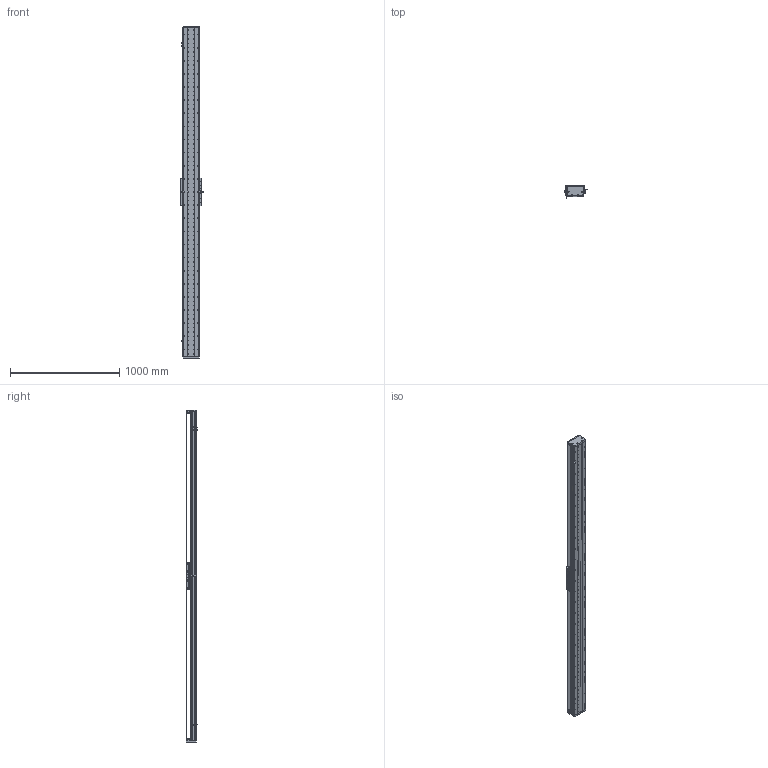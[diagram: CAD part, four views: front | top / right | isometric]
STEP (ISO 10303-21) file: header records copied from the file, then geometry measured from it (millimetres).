
FILE_DESCRIPTION (( 'STEP AP203' ), '1' );
FILE_NAME ('DA-C145-C3-T2700-C010-0.2 眻盄萇儂.STEP', '2025-08-14T01:34:53', ( '' ), ( '' ), 'SwSTEP 2.0', 'SolidWorks 2019', '' );
FILE_SCHEMA (( 'CONFIG_CONTROL_DESIGN' ));
Length unit declared in the file: millimetre
Products named in the file (32): DA-C145-C3-T2700-C010-0.2 眻盄萇儂; 葩璃 CKMA01-W060-TRL^DA-C145-C3-T-C010-0.2; IU-CU145-L-00 菁釱(L3000); 复件 DA145-GYP-00 光电感应片^DA-C145-C3-T-C010-0.2; 葩璃 XD-U-02L 棠掑喜^DA-C145-C3-T-C010-0.2; 复件 DA95-HK-GT-00 滑块钢轨^CU145-W-00 一体化滑动台板; 复件 DA145 钢带^复件 CU145 钢带组件_DA-C145-C3-T-C010-0.2; CU145-W 幗紩賑怢; 葩璃 CU145 詩湍郪璃^DA-C145-C3-T-C010-0.2; 复件 纯铜油杯 6x6mm^CU145-W 滚珠滑台; CU145-W-00 珨极趙賑雄怢啣; IU-CU145-L 菁釱絳寢; 66245-CU145-HT-W-00 賑雄怢啣(3D芞祧)(00); 葩璃 DA145-C3-DP-A-00 菜えA^CU145-W 幗紩賑怢; 复件 DA145-DG 钢带端盖^复件 CU145 钢带组件_DA-C145-C3-T-C010-0.2; TAY01-M8; 葩璃 DA145-C3-DP-B-00 菜えB^CU145-W 幗紩賑怢; 复件 半圆头内六角螺钉 M3×6^CU145-W 滚珠滑台; 葩璃 DA95-HXJ-00 遣喳砎蝶^DA-C145-C3-T-C010-0.2; 葩璃 PM-T45^DA-C145-C3-T-C010-0.2; 复件 内六角平端紧定螺钉 GB.T77-2000 M5×10^CU145-W 滚珠滑台; 复件 DA146 钢带拉块^复件 CU145 钢带组件_DA-C145-C3-T-C010-0.2; 葩璃 DA95-GT-T-00^IU-CU145-L 菁釱絳寢; 复件 DA146 钢带垫块^复件 CU145 钢带组件_DA-C145-C3-T-C010-0.2; 复件 DA95-MFP-01 密封片^CU145-W 滚珠滑台; 复件 DA145-C3-YB-B-00 压板B^CU145-W 滚珠滑台; 葩璃 鞠褒情蹟譫 M3^DA-C145-C3-T-C010-0.2; 复件 DA145-C3-DK-00 挡块^CU145-W 滚珠滑台; 葩璃 DMA-010-0.2 黍杅芛^DA-C145-C3-T-C010-0.2; 葩璃 CKM03-W060-C1C2-TP-0.2^DA-C145-C3-T-C010-0.2; 复件 DA95-DB-00  挡板^CU145-W 滚珠滑台; 复件 DA145-C3-YB-A-00 压板A^CU145-W 滚珠滑台
Assembly tree (103 placements, depth 4):
  DA-C145-C3-T2700-C010-0.2 眻盄萇儂
    IU-CU145-L 菁釱絳寢
      IU-CU145-L-00 菁釱(L3000)
      葩璃 DA95-GT-T-00^IU-CU145-L 菁釱絳寢  x4
    葩璃 CU145 詩湍郪璃^DA-C145-C3-T-C010-0.2
      复件 DA145-DG 钢带端盖^复件 CU145 钢带组件_DA-C145-C3-T-C010-0.2  x2
      复件 DA146 钢带拉块^复件 CU145 钢带组件_DA-C145-C3-T-C010-0.2  x2
      复件 DA146 钢带垫块^复件 CU145 钢带组件_DA-C145-C3-T-C010-0.2  x2
      复件 DA145 钢带^复件 CU145 钢带组件_DA-C145-C3-T-C010-0.2
    CU145-W 幗紩賑怢
      CU145-W-00 珨极趙賑雄怢啣
        66245-CU145-HT-W-00 賑雄怢啣(3D芞祧)(00)
        复件 DA95-HK-GT-00 滑块钢轨^CU145-W-00 一体化滑动台板  x8
      复件 DA95-MFP-01 密封片^CU145-W 滚珠滑台  x8
      复件 DA95-DB-00  挡板^CU145-W 滚珠滑台  x8
      复件 内六角平端紧定螺钉 GB.T77-2000 M5×10^CU145-W 滚珠滑台  x4
      复件 纯铜油杯 6x6mm^CU145-W 滚珠滑台  x4
      复件 半圆头内六角螺钉 M3×6^CU145-W 滚珠滑台  x16
      复件 DA145-C3-DK-00 挡块^CU145-W 滚珠滑台  x4
      葩璃 DA145-C3-DP-B-00 菜えB^CU145-W 幗紩賑怢  x2
      复件 DA145-C3-YB-B-00 压板B^CU145-W 滚珠滑台  x2
      葩璃 DA145-C3-DP-A-00 菜えA^CU145-W 幗紩賑怢  x3
      复件 DA145-C3-YB-A-00 压板A^CU145-W 滚珠滑台  x3
      TAY01-M8  x4
    葩璃 CKMA01-W060-TRL^DA-C145-C3-T-C010-0.2
    葩璃 PM-T45^DA-C145-C3-T-C010-0.2  x3
    葩璃 XD-U-02L 棠掑喜^DA-C145-C3-T-C010-0.2
    葩璃 DA95-HXJ-00 遣喳砎蝶^DA-C145-C3-T-C010-0.2  x4
    复件 DA145-GYP-00 光电感应片^DA-C145-C3-T-C010-0.2
    葩璃 DMA-010-0.2 黍杅芛^DA-C145-C3-T-C010-0.2
    葩璃 CKM03-W060-C1C2-TP-0.2^DA-C145-C3-T-C010-0.2
    葩璃 鞠褒情蹟譫 M3^DA-C145-C3-T-C010-0.2  x8
Bounding box: 203.5 x 108.45 x 3036 mm (x, y, z)
Volume: 13974229 mm3; surface area: 4706403.8 mm2
Topology: 99 solids, 131 shells, 4810 faces, 13934 edges, 8754 vertices
Faces by surface type: cylinder 2440, plane 1602, cone 690, torus 74, sphere 4
Entity records: 137360 total; most frequent: CARTESIAN_POINT 42000, ORIENTED_EDGE 19388, DIRECTION 18237, EDGE_CURVE 9694, AXIS2_PLACEMENT_3D 6862, VERTEX_POINT 6293, VECTOR 4513, LINE 4513
